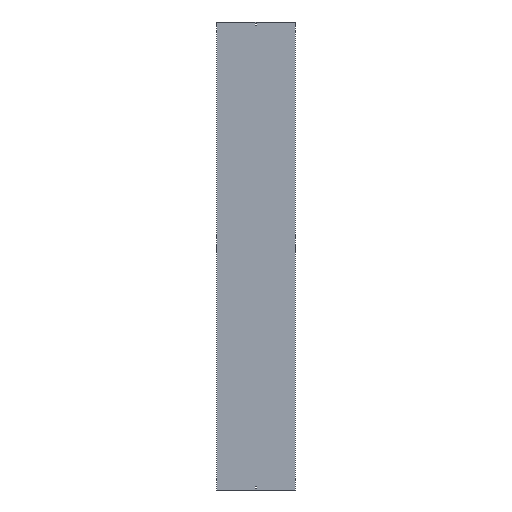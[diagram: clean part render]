
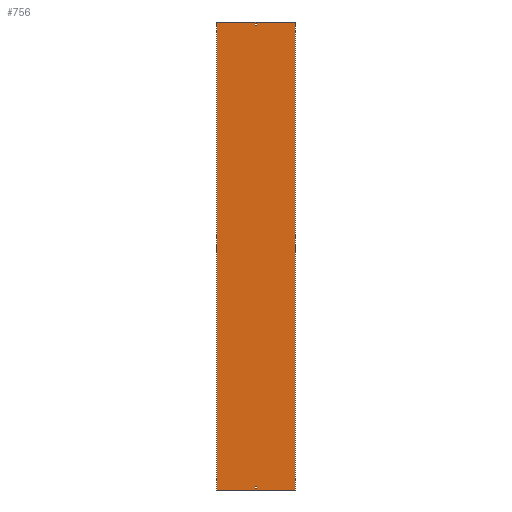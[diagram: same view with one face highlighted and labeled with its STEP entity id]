
A CAD part, front view. The second image highlights one B-rep face of the part: STEP entity #756.
In plain terms, the highlighted planar face has unit normal (0, -1, 0).
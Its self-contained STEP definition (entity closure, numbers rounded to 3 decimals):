
#29 = DIRECTION ( 'NONE',  ( 1., 0., 0. ) ) ;
#42 = DIRECTION ( 'NONE',  ( 0., 0., 1. ) ) ;
#59 = DIRECTION ( 'NONE',  ( 0., 0., -1. ) ) ;
#98 = CARTESIAN_POINT ( 'NONE',  ( -3.25, 0., 1488. ) ) ;
#143 = CARTESIAN_POINT ( 'NONE',  ( -252., 0., 1500. ) ) ;
#155 = VERTEX_POINT ( 'NONE', #286 ) ;
#159 = LINE ( 'NONE', #1330, #170 ) ;
#170 = VECTOR ( 'NONE', #42, 1000. ) ;
#177 = CARTESIAN_POINT ( 'NONE',  ( -252., 0., -1500. ) ) ;
#194 = CARTESIAN_POINT ( 'NONE',  ( 252., 0., -1500. ) ) ;
#200 = ORIENTED_EDGE ( 'NONE', *, *, #1058, .F. ) ;
#209 = ORIENTED_EDGE ( 'NONE', *, *, #298, .F. ) ;
#211 = LINE ( 'NONE', #1399, #1273 ) ;
#225 = ORIENTED_EDGE ( 'NONE', *, *, #1304, .T. ) ;
#243 = DIRECTION ( 'NONE',  ( 1., 0., 0. ) ) ;
#255 = CARTESIAN_POINT ( 'NONE',  ( 3.25, 0., 1479. ) ) ;
#257 = CARTESIAN_POINT ( 'NONE',  ( -252., 0., 1500. ) ) ;
#286 = CARTESIAN_POINT ( 'NONE',  ( 252., 0., 1500. ) ) ;
#290 = ORIENTED_EDGE ( 'NONE', *, *, #300, .F. ) ;
#298 = EDGE_CURVE ( 'NONE', #155, #491, #211, .T. ) ;
#300 = EDGE_CURVE ( 'NONE', #516, #1220, #1121, .T. ) ;
#309 = VECTOR ( 'NONE', #319, 1000. ) ;
#319 = DIRECTION ( 'NONE',  ( 1., 0., 0. ) ) ;
#320 = CARTESIAN_POINT ( 'NONE',  ( -3.25, 0., 1488. ) ) ;
#321 = VECTOR ( 'NONE', #59, 1000. ) ;
#331 = VECTOR ( 'NONE', #485, 1000. ) ;
#350 = LINE ( 'NONE', #320, #321 ) ;
#414 = EDGE_LOOP ( 'NONE', ( #1634, #664, #1030, #693 ) ) ;
#441 = VECTOR ( 'NONE', #942, 1000. ) ;
#485 = DIRECTION ( 'NONE',  ( 0., 0., 1. ) ) ;
#488 = EDGE_CURVE ( 'NONE', #1457, #1148, #1482, .T. ) ;
#491 = VERTEX_POINT ( 'NONE', #194 ) ;
#516 = VERTEX_POINT ( 'NONE', #1475 ) ;
#518 = DIRECTION ( 'NONE',  ( 1., 0., 0. ) ) ;
#528 = EDGE_CURVE ( 'NONE', #1148, #516, #159, .T. ) ;
#545 = VERTEX_POINT ( 'NONE', #949 ) ;
#558 = CARTESIAN_POINT ( 'NONE',  ( -3.25, 0., -1488. ) ) ;
#619 = LINE ( 'NONE', #1636, #331 ) ;
#656 = CARTESIAN_POINT ( 'NONE',  ( -252., 0., 1500. ) ) ;
#657 = EDGE_CURVE ( 'NONE', #545, #1286, #619, .T. ) ;
#664 = ORIENTED_EDGE ( 'NONE', *, *, #1136, .T. ) ;
#675 = FACE_OUTER_BOUND ( 'NONE', #1481, .T. ) ;
#678 = EDGE_CURVE ( 'NONE', #1635, #1131, #1649, .T. ) ;
#693 = ORIENTED_EDGE ( 'NONE', *, *, #950, .T. ) ;
#743 = CARTESIAN_POINT ( 'NONE',  ( -3.25, 0., 1479. ) ) ;
#747 = ORIENTED_EDGE ( 'NONE', *, *, #488, .F. ) ;
#756 = ADVANCED_FACE ( 'NONE', ( #675, #1659, #781 ), #1159, .F. ) ;
#766 = CARTESIAN_POINT ( 'NONE',  ( 3.25, 0., -1488. ) ) ;
#781 = FACE_BOUND ( 'NONE', #414, .T. ) ;
#799 = DIRECTION ( 'NONE',  ( 0., 1., 0. ) ) ;
#823 = CARTESIAN_POINT ( 'NONE',  ( -3.25, 0., 1479. ) ) ;
#856 = DIRECTION ( 'NONE',  ( 0., 0., -1. ) ) ;
#875 = EDGE_LOOP ( 'NONE', ( #747, #1511, #290, #972 ) ) ;
#887 = CARTESIAN_POINT ( 'NONE',  ( -3.25, 0., -1479. ) ) ;
#894 = VECTOR ( 'NONE', #971, 1000. ) ;
#938 = LINE ( 'NONE', #177, #1355 ) ;
#942 = DIRECTION ( 'NONE',  ( -1., 0., 0. ) ) ;
#949 = CARTESIAN_POINT ( 'NONE',  ( -3.25, 0., -1488. ) ) ;
#950 = EDGE_CURVE ( 'NONE', #1131, #545, #1344, .T. ) ;
#971 = DIRECTION ( 'NONE',  ( 0., 0., -1. ) ) ;
#972 = ORIENTED_EDGE ( 'NONE', *, *, #528, .F. ) ;
#997 = CARTESIAN_POINT ( 'NONE',  ( 3.25, 0., -1488. ) ) ;
#999 = EDGE_CURVE ( 'NONE', #1158, #1229, #1611, .T. ) ;
#1015 = DIRECTION ( 'NONE',  ( -1., 0., 0. ) ) ;
#1030 = ORIENTED_EDGE ( 'NONE', *, *, #678, .T. ) ;
#1038 = CARTESIAN_POINT ( 'NONE',  ( -252., 0., -1500. ) ) ;
#1058 = EDGE_CURVE ( 'NONE', #1158, #155, #1544, .T. ) ;
#1101 = CARTESIAN_POINT ( 'NONE',  ( -252., 0., 1500. ) ) ;
#1121 = LINE ( 'NONE', #98, #1385 ) ;
#1131 = VERTEX_POINT ( 'NONE', #766 ) ;
#1136 = EDGE_CURVE ( 'NONE', #1286, #1635, #1554, .T. ) ;
#1148 = VERTEX_POINT ( 'NONE', #255 ) ;
#1150 = DIRECTION ( 'NONE',  ( -1., 0., 0. ) ) ;
#1158 = VERTEX_POINT ( 'NONE', #257 ) ;
#1159 = PLANE ( 'NONE',  #1392 ) ;
#1164 = CARTESIAN_POINT ( 'NONE',  ( -3.25, 0., 1488. ) ) ;
#1197 = VECTOR ( 'NONE', #243, 1000. ) ;
#1220 = VERTEX_POINT ( 'NONE', #1164 ) ;
#1229 = VERTEX_POINT ( 'NONE', #1038 ) ;
#1273 = VECTOR ( 'NONE', #856, 1000. ) ;
#1281 = VECTOR ( 'NONE', #1512, 1000. ) ;
#1286 = VERTEX_POINT ( 'NONE', #1656 ) ;
#1295 = CARTESIAN_POINT ( 'NONE',  ( 3.25, 0., -1479. ) ) ;
#1304 = EDGE_CURVE ( 'NONE', #1229, #491, #938, .T. ) ;
#1330 = CARTESIAN_POINT ( 'NONE',  ( 3.25, 0., 1488. ) ) ;
#1344 = LINE ( 'NONE', #558, #441 ) ;
#1355 = VECTOR ( 'NONE', #29, 1000. ) ;
#1385 = VECTOR ( 'NONE', #1015, 1000. ) ;
#1392 = AXIS2_PLACEMENT_3D ( 'NONE', #656, #799, #1150 ) ;
#1399 = CARTESIAN_POINT ( 'NONE',  ( 252., 0., 1500. ) ) ;
#1457 = VERTEX_POINT ( 'NONE', #743 ) ;
#1462 = EDGE_CURVE ( 'NONE', #1220, #1457, #350, .T. ) ;
#1467 = VECTOR ( 'NONE', #518, 1000. ) ;
#1475 = CARTESIAN_POINT ( 'NONE',  ( 3.25, 0., 1488. ) ) ;
#1481 = EDGE_LOOP ( 'NONE', ( #225, #209, #200, #1615 ) ) ;
#1482 = LINE ( 'NONE', #823, #309 ) ;
#1511 = ORIENTED_EDGE ( 'NONE', *, *, #1462, .F. ) ;
#1512 = DIRECTION ( 'NONE',  ( 0., 0., -1. ) ) ;
#1544 = LINE ( 'NONE', #143, #1467 ) ;
#1554 = LINE ( 'NONE', #887, #1197 ) ;
#1611 = LINE ( 'NONE', #1101, #894 ) ;
#1615 = ORIENTED_EDGE ( 'NONE', *, *, #999, .T. ) ;
#1634 = ORIENTED_EDGE ( 'NONE', *, *, #657, .T. ) ;
#1635 = VERTEX_POINT ( 'NONE', #1295 ) ;
#1636 = CARTESIAN_POINT ( 'NONE',  ( -3.25, 0., -1488. ) ) ;
#1649 = LINE ( 'NONE', #997, #1281 ) ;
#1656 = CARTESIAN_POINT ( 'NONE',  ( -3.25, 0., -1479. ) ) ;
#1659 = FACE_BOUND ( 'NONE', #875, .T. ) ;
